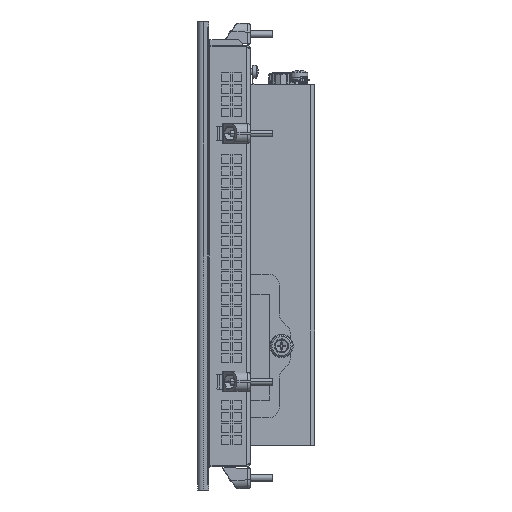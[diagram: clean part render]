
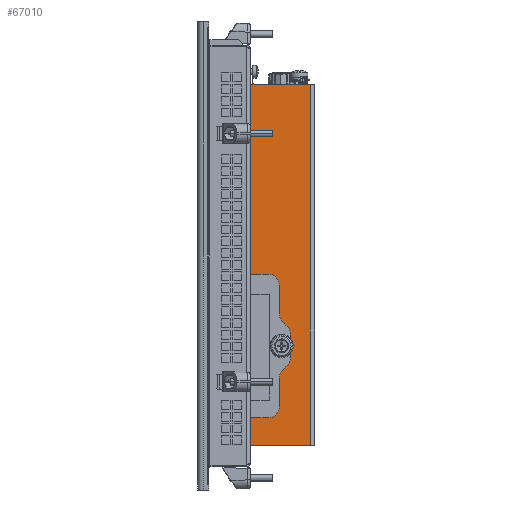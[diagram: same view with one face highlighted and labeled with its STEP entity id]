
A CAD part, left-side view. The second image highlights one B-rep face of the part: STEP entity #67010.
In plain terms, the highlighted planar face has unit normal (-1, 0, 0).
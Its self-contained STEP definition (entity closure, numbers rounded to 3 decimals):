
#40300=DIRECTION('',(0.,-1.,0.));
#40301=VECTOR('',#40300,8.5);
#40302=CARTESIAN_POINT('',(-126.5,-19.,-17.25));
#40303=LINE('',#40302,#40301);
#40304=DIRECTION('',(0.,-1.,0.));
#40305=VECTOR('',#40304,3.);
#40306=CARTESIAN_POINT('',(-126.5,-16.,-17.25));
#40307=LINE('',#40306,#40305);
#40308=DIRECTION('',(0.,-0.707,-0.707));
#40309=VECTOR('',#40308,1.414);
#40310=CARTESIAN_POINT('',(-126.5,-15.,-16.25));
#40311=LINE('',#40310,#40309);
#40312=DIRECTION('',(0.,0.,-1.));
#40313=VECTOR('',#40312,28.);
#40314=CARTESIAN_POINT('',(-126.5,-15.,11.75));
#40315=LINE('',#40314,#40313);
#40316=DIRECTION('',(0.,0.707,-0.707));
#40317=VECTOR('',#40316,1.414);
#40318=CARTESIAN_POINT('',(-126.5,-16.,12.75));
#40319=LINE('',#40318,#40317);
#40320=DIRECTION('',(0.,-1.,0.));
#40321=VECTOR('',#40320,3.);
#40322=CARTESIAN_POINT('',(-126.5,-16.,12.75));
#40323=LINE('',#40322,#40321);
#40324=DIRECTION('',(0.,0.,1.));
#40325=VECTOR('',#40324,55.);
#40326=CARTESIAN_POINT('',(-126.5,-19.,12.75));
#40327=LINE('',#40326,#40325);
#40328=DIRECTION('',(0.,0.,1.));
#40329=VECTOR('',#40328,4.);
#40330=CARTESIAN_POINT('',(-126.5,-19.,67.75));
#40331=LINE('',#40330,#40329);
#40332=DIRECTION('',(0.,1.,0.));
#40333=VECTOR('',#40332,1.5);
#40334=CARTESIAN_POINT('',(-126.5,-19.,71.75));
#40335=LINE('',#40334,#40333);
#40336=DIRECTION('',(0.,0.,-1.));
#40337=VECTOR('',#40336,3.);
#40338=CARTESIAN_POINT('',(-126.5,-17.5,71.75));
#40339=LINE('',#40338,#40337);
#40340=DIRECTION('',(0.,-0.707,0.707));
#40341=VECTOR('',#40340,1.414);
#40342=CARTESIAN_POINT('',(-126.5,-16.5,67.75));
#40343=LINE('',#40342,#40341);
#40344=DIRECTION('',(0.,-1.,0.));
#40345=VECTOR('',#40344,0.5);
#40346=CARTESIAN_POINT('',(-126.5,-16.,67.75));
#40347=LINE('',#40346,#40345);
#40348=DIRECTION('',(0.,-0.707,-0.707));
#40349=VECTOR('',#40348,1.414);
#40350=CARTESIAN_POINT('',(-126.5,-15.,68.75));
#40351=LINE('',#40350,#40349);
#40352=DIRECTION('',(0.,0.,-1.));
#40353=VECTOR('',#40352,8.);
#40354=CARTESIAN_POINT('',(-126.5,-15.,76.75));
#40355=LINE('',#40354,#40353);
#40356=DIRECTION('',(0.,0.707,-0.707));
#40357=VECTOR('',#40356,1.414);
#40358=CARTESIAN_POINT('',(-126.5,-16.,77.75));
#40359=LINE('',#40358,#40357);
#40360=DIRECTION('',(0.,0.,1.));
#40361=VECTOR('',#40360,4.);
#40362=CARTESIAN_POINT('',(-126.5,-19.,-85.75));
#40363=LINE('',#40362,#40361);
#40364=DIRECTION('',(0.,1.,0.));
#40365=VECTOR('',#40364,1.5);
#40366=CARTESIAN_POINT('',(-126.5,-19.,-81.75));
#40367=LINE('',#40366,#40365);
#40368=DIRECTION('',(0.,0.,-1.));
#40369=VECTOR('',#40368,3.);
#40370=CARTESIAN_POINT('',(-126.5,-17.5,-81.75));
#40371=LINE('',#40370,#40369);
#40372=DIRECTION('',(0.,-0.707,0.707));
#40373=VECTOR('',#40372,1.414);
#40374=CARTESIAN_POINT('',(-126.5,-16.5,-85.75));
#40375=LINE('',#40374,#40373);
#40376=DIRECTION('',(0.,-0.707,-0.707));
#40377=VECTOR('',#40376,1.414);
#40378=CARTESIAN_POINT('',(-126.5,-15.,-84.75));
#40379=LINE('',#40378,#40377);
#40380=DIRECTION('',(0.,0.,-1.));
#40381=VECTOR('',#40380,6.5);
#40382=CARTESIAN_POINT('',(-126.5,-15.,-78.25));
#40383=LINE('',#40382,#40381);
#40384=DIRECTION('',(0.,0.707,-0.707));
#40385=VECTOR('',#40384,1.414);
#40386=CARTESIAN_POINT('',(-126.5,-16.,-77.25));
#40387=LINE('',#40386,#40385);
#40388=DIRECTION('',(0.,-1.,0.));
#40389=VECTOR('',#40388,3.);
#40390=CARTESIAN_POINT('',(-126.5,-16.,-77.25));
#40391=LINE('',#40390,#40389);
#40392=DIRECTION('',(0.,0.,1.));
#40393=VECTOR('',#40392,12.);
#40394=CARTESIAN_POINT('',(-126.5,-19.,-77.25));
#40395=LINE('',#40394,#40393);
#40396=DIRECTION('',(0.,1.,0.));
#40397=VECTOR('',#40396,8.5);
#40398=CARTESIAN_POINT('',(-126.5,-27.5,-65.25));
#40399=LINE('',#40398,#40397);
#40400=DIRECTION('',(0.,0.,-1.));
#40401=VECTOR('',#40400,48.);
#40402=CARTESIAN_POINT('',(-126.5,-27.5,-17.25));
#40403=LINE('',#40402,#40401);
#40404=CARTESIAN_POINT('',(-126.5,-33.,-40.75));
#40405=DIRECTION('',(-1.,0.,0.));
#40406=DIRECTION('',(0.,0.,1.));
#40407=AXIS2_PLACEMENT_3D('',#40404,#40405,#40406);
#40409=CARTESIAN_POINT('',(-126.5,-33.,-40.75));
#40410=DIRECTION('',(-1.,0.,0.));
#40411=DIRECTION('',(0.,0.,-1.));
#40412=AXIS2_PLACEMENT_3D('',#40409,#40410,#40411);
#40414=DIRECTION('',(0.,0.,1.));
#40415=VECTOR('',#40414,163.5);
#40416=CARTESIAN_POINT('',(-126.5,-46.,-85.75));
#40417=LINE('',#40416,#40415);
#47066=DIRECTION('',(0.,-1.,0.));
#47067=VECTOR('',#47066,27.);
#47068=CARTESIAN_POINT('',(-126.5,-19.,-85.75));
#47069=LINE('',#47068,#47067);
#47082=DIRECTION('',(0.,1.,0.));
#47083=VECTOR('',#47082,30.);
#47084=CARTESIAN_POINT('',(-126.5,-46.,77.75));
#47085=LINE('',#47084,#47083);
#52257=DIRECTION('',(0.,-1.,0.));
#52258=VECTOR('',#52257,0.5);
#52259=CARTESIAN_POINT('',(-126.5,-16.,-85.75));
#52260=LINE('',#52259,#52258);
#60210=CARTESIAN_POINT('',(-126.5,-46.,-85.75));
#60211=CARTESIAN_POINT('',(-126.5,-46.,77.75));
#60212=VERTEX_POINT('',#60210);
#60213=VERTEX_POINT('',#60211);
#62698=CARTESIAN_POINT('',(-126.5,-19.,-81.75));
#62699=CARTESIAN_POINT('',(-126.5,-19.,-85.75));
#62700=VERTEX_POINT('',#62698);
#62701=VERTEX_POINT('',#62699);
#62702=CARTESIAN_POINT('',(-126.5,-17.5,-81.75));
#62703=VERTEX_POINT('',#62702);
#62724=CARTESIAN_POINT('',(-126.5,-19.,67.75));
#62725=CARTESIAN_POINT('',(-126.5,-19.,12.75));
#62726=VERTEX_POINT('',#62724);
#62727=VERTEX_POINT('',#62725);
#62740=CARTESIAN_POINT('',(-126.5,-19.,-77.25));
#62742=VERTEX_POINT('',#62740);
#62776=CARTESIAN_POINT('',(-126.5,-16.,-77.25));
#62777=CARTESIAN_POINT('',(-126.5,-15.,-78.25));
#62778=VERTEX_POINT('',#62776);
#62779=VERTEX_POINT('',#62777);
#62784=CARTESIAN_POINT('',(-126.5,-15.,-16.25));
#62785=CARTESIAN_POINT('',(-126.5,-16.,-17.25));
#62786=VERTEX_POINT('',#62784);
#62787=VERTEX_POINT('',#62785);
#62792=CARTESIAN_POINT('',(-126.5,-16.,12.75));
#62793=CARTESIAN_POINT('',(-126.5,-15.,11.75));
#62794=VERTEX_POINT('',#62792);
#62795=VERTEX_POINT('',#62793);
#62800=CARTESIAN_POINT('',(-126.5,-15.,68.75));
#62801=CARTESIAN_POINT('',(-126.5,-16.,67.75));
#62802=VERTEX_POINT('',#62800);
#62803=VERTEX_POINT('',#62801);
#62810=CARTESIAN_POINT('',(-126.5,-16.5,67.75));
#62811=VERTEX_POINT('',#62810);
#62816=CARTESIAN_POINT('',(-126.5,-15.,76.75));
#62817=VERTEX_POINT('',#62816);
#62818=CARTESIAN_POINT('',(-126.5,-15.,-84.75));
#62819=VERTEX_POINT('',#62818);
#62832=CARTESIAN_POINT('',(-126.5,-19.,-17.25));
#62833=CARTESIAN_POINT('',(-126.5,-27.5,-17.25));
#62834=VERTEX_POINT('',#62832);
#62835=VERTEX_POINT('',#62833);
#62836=CARTESIAN_POINT('',(-126.5,-27.5,-65.25));
#62837=VERTEX_POINT('',#62836);
#62838=CARTESIAN_POINT('',(-126.5,-19.,-65.25));
#62839=VERTEX_POINT('',#62838);
#62852=CARTESIAN_POINT('',(-126.5,-17.5,71.75));
#62853=CARTESIAN_POINT('',(-126.5,-19.,71.75));
#62854=VERTEX_POINT('',#62852);
#62855=VERTEX_POINT('',#62853);
#62876=CARTESIAN_POINT('',(-126.5,-16.5,-85.75));
#62877=CARTESIAN_POINT('',(-126.5,-17.5,-84.75));
#62878=VERTEX_POINT('',#62876);
#62879=VERTEX_POINT('',#62877);
#62884=CARTESIAN_POINT('',(-126.5,-17.5,68.75));
#62885=VERTEX_POINT('',#62884);
#62896=CARTESIAN_POINT('',(-126.5,-16.,-85.75));
#62897=VERTEX_POINT('',#62896);
#62900=CARTESIAN_POINT('',(-126.5,-16.,77.75));
#62901=VERTEX_POINT('',#62900);
#65488=CARTESIAN_POINT('',(-126.5,-33.,-42.9));
#65489=CARTESIAN_POINT('',(-126.5,-33.,-38.6));
#65490=VERTEX_POINT('',#65488);
#65491=VERTEX_POINT('',#65489);
#66937=CARTESIAN_POINT('',(-126.5,-19.,-85.75));
#66938=DIRECTION('',(-1.,0.,0.));
#66939=DIRECTION('',(0.,-1.,0.));
#66940=AXIS2_PLACEMENT_3D('',#66937,#66938,#66939);
#66941=PLANE('',#66940);
#66943=ORIENTED_EDGE('',*,*,#66942,.F.);
#66945=ORIENTED_EDGE('',*,*,#66944,.F.);
#66947=ORIENTED_EDGE('',*,*,#66946,.F.);
#66949=ORIENTED_EDGE('',*,*,#66948,.F.);
#66951=ORIENTED_EDGE('',*,*,#66950,.F.);
#66953=ORIENTED_EDGE('',*,*,#66952,.T.);
#66955=ORIENTED_EDGE('',*,*,#66954,.T.);
#66957=ORIENTED_EDGE('',*,*,#66956,.T.);
#66959=ORIENTED_EDGE('',*,*,#66958,.T.);
#66961=ORIENTED_EDGE('',*,*,#66960,.T.);
#66963=ORIENTED_EDGE('',*,*,#66962,.F.);
#66965=ORIENTED_EDGE('',*,*,#66964,.F.);
#66967=ORIENTED_EDGE('',*,*,#66966,.F.);
#66969=ORIENTED_EDGE('',*,*,#66968,.F.);
#66971=ORIENTED_EDGE('',*,*,#66970,.F.);
#66973=ORIENTED_EDGE('',*,*,#66972,.F.);
#66975=ORIENTED_EDGE('',*,*,#66974,.F.);
#66977=ORIENTED_EDGE('',*,*,#66976,.F.);
#66979=ORIENTED_EDGE('',*,*,#66978,.T.);
#66981=ORIENTED_EDGE('',*,*,#66980,.T.);
#66983=ORIENTED_EDGE('',*,*,#66982,.T.);
#66985=ORIENTED_EDGE('',*,*,#66984,.F.);
#66987=ORIENTED_EDGE('',*,*,#66986,.F.);
#66989=ORIENTED_EDGE('',*,*,#66988,.F.);
#66991=ORIENTED_EDGE('',*,*,#66990,.F.);
#66993=ORIENTED_EDGE('',*,*,#66992,.F.);
#66995=ORIENTED_EDGE('',*,*,#66994,.T.);
#66997=ORIENTED_EDGE('',*,*,#66996,.T.);
#66999=ORIENTED_EDGE('',*,*,#66998,.F.);
#67001=ORIENTED_EDGE('',*,*,#67000,.F.);
#67002=EDGE_LOOP('',(#66943,#66945,#66947,#66949,#66951,#66953,#66955,#66957,
#66959,#66961,#66963,#66965,#66967,#66969,#66971,#66973,#66975,#66977,#66979,
#66981,#66983,#66985,#66987,#66989,#66991,#66993,#66995,#66997,#66999,#67001));
#67003=FACE_OUTER_BOUND('',#67002,.F.);
#67005=ORIENTED_EDGE('',*,*,#67004,.T.);
#67007=ORIENTED_EDGE('',*,*,#67006,.T.);
#67008=EDGE_LOOP('',(#67005,#67007));
#67009=FACE_BOUND('',#67008,.F.);
#40408=CIRCLE('',#40407,2.15);
#40413=CIRCLE('',#40412,2.15);
#66942=EDGE_CURVE('',#62834,#62835,#40303,.T.);
#66944=EDGE_CURVE('',#62787,#62834,#40307,.T.);
#66946=EDGE_CURVE('',#62786,#62787,#40311,.T.);
#66948=EDGE_CURVE('',#62795,#62786,#40315,.T.);
#66950=EDGE_CURVE('',#62794,#62795,#40319,.T.);
#66952=EDGE_CURVE('',#62794,#62727,#40323,.T.);
#66954=EDGE_CURVE('',#62727,#62726,#40327,.T.);
#66956=EDGE_CURVE('',#62726,#62855,#40331,.T.);
#66958=EDGE_CURVE('',#62855,#62854,#40335,.T.);
#66960=EDGE_CURVE('',#62854,#62885,#40339,.T.);
#66962=EDGE_CURVE('',#62811,#62885,#40343,.T.);
#66964=EDGE_CURVE('',#62803,#62811,#40347,.T.);
#66966=EDGE_CURVE('',#62802,#62803,#40351,.T.);
#66968=EDGE_CURVE('',#62817,#62802,#40355,.T.);
#66970=EDGE_CURVE('',#62901,#62817,#40359,.T.);
#66972=EDGE_CURVE('',#60213,#62901,#47085,.T.);
#66974=EDGE_CURVE('',#60212,#60213,#40417,.T.);
#66976=EDGE_CURVE('',#62701,#60212,#47069,.T.);
#66978=EDGE_CURVE('',#62701,#62700,#40363,.T.);
#66980=EDGE_CURVE('',#62700,#62703,#40367,.T.);
#66982=EDGE_CURVE('',#62703,#62879,#40371,.T.);
#66984=EDGE_CURVE('',#62878,#62879,#40375,.T.);
#66986=EDGE_CURVE('',#62897,#62878,#52260,.T.);
#66988=EDGE_CURVE('',#62819,#62897,#40379,.T.);
#66990=EDGE_CURVE('',#62779,#62819,#40383,.T.);
#66992=EDGE_CURVE('',#62778,#62779,#40387,.T.);
#66994=EDGE_CURVE('',#62778,#62742,#40391,.T.);
#66996=EDGE_CURVE('',#62742,#62839,#40395,.T.);
#66998=EDGE_CURVE('',#62837,#62839,#40399,.T.);
#67000=EDGE_CURVE('',#62835,#62837,#40403,.T.);
#67004=EDGE_CURVE('',#65491,#65490,#40408,.T.);
#67006=EDGE_CURVE('',#65490,#65491,#40413,.T.);
#67010=ADVANCED_FACE('',(#67003,#67009),#66941,.T.);
